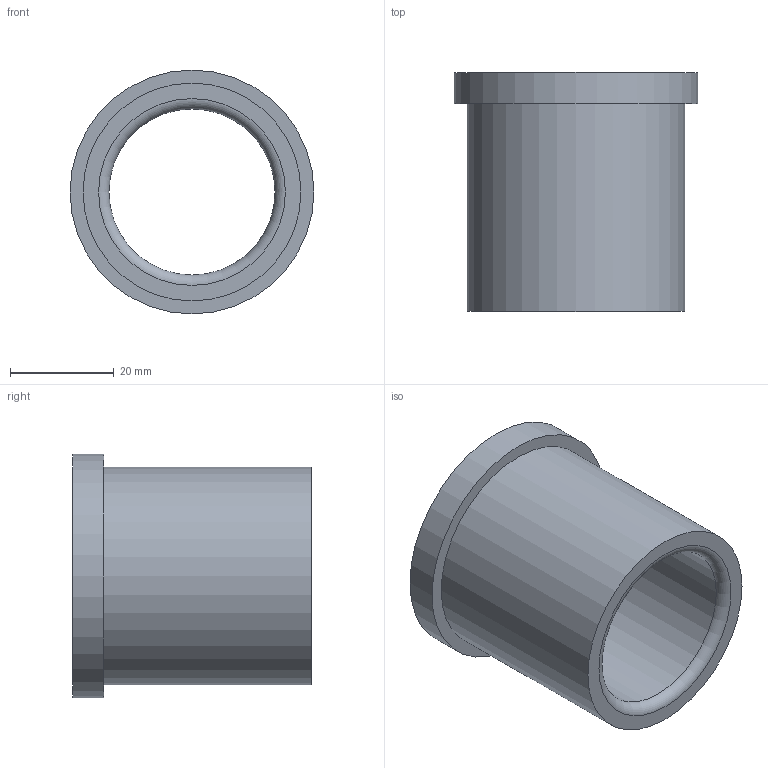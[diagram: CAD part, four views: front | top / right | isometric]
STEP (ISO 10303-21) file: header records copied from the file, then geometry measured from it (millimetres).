
FILE_DESCRIPTION(/* description */ ('STEP AP214'),/* implementation_level */ '2;1');
FILE_NAME(/* name */ '03_12_17947',/* time_stamp */ '2023-06-15T11:35:40+02:00',/* author */ ('License CC BY-ND 4.0'),/* organization */ ('CADENAS'),/* preprocessor_version */ 'ST-DEVELOPER v19.3',/* originating_system */ 'PARTsolutions',/* authorisation */ ' ');
FILE_SCHEMA (('AUTOMOTIVE_DESIGN {1 0 10303 214 3 1 1}'));
Length unit declared in the file: millimetre
Products named in the file (1): VA_Bushing_17947
Bounding box: 47 x 46 x 47 mm (x, y, z)
Volume: 28372.9 mm3; surface area: 12496.3 mm2
Topology: 1 solids, 1 shells, 10 faces, 16 edges, 10 vertices
Faces by surface type: cylinder 4, plane 4, torus 2
Full cylindrical faces by diameter (mm): 32 x1, 32.6 x1, 42 x1, 47 x1
Entity records: 302 total; most frequent: DIRECTION 42, CARTESIAN_POINT 31, AXIS2_PLACEMENT_3D 21, ORIENTED_EDGE 20, EDGE_LOOP 20, FACE_BOUND 20, EDGE_CURVE 10, VERTEX_POINT 10
